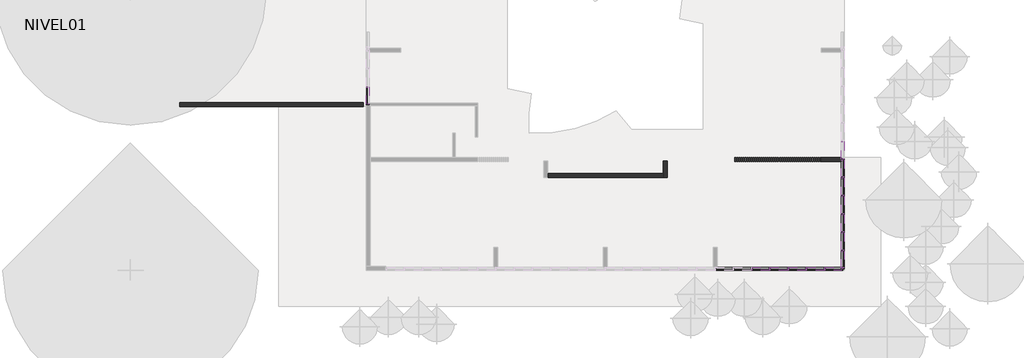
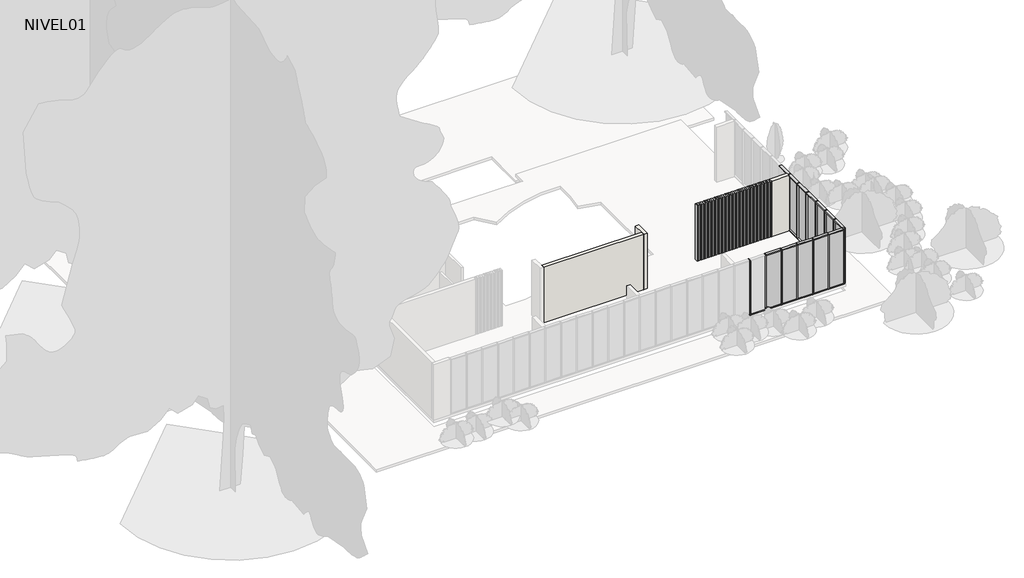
# One storey, part 2 of 4: 84 members, 12 plates, 4 walls.
"""IFC4 building model written with IfcOpenShell, lengths in millimetres."""

from ifc_helpers import new_model, si_unit, frame, origin, place, context, project, spatial, polyline, outline, extrude, faceted_brep, transform, mapped, element, save
from components import rectangular_mullion_50_x_150mm_86a57cfb, rectangular_mullion_50_x_150mm_fc863719, rectangular_mullion_50_x_150mm_24ac0887, rectangular_mullion_50_x_150mm_aa6e6970, rectangular_mullion_50_x_150mm_f2553ced, rectangular_mullion_50_x_150mm_8dc60d6a, rectangular_mullion_50_x_150mm_324a6438, rectangular_mullion_madera_50_x_200mm_c4610814, system_panel_glazed_7f3dea71, system_panel_glazed_5e317294, system_panel_glazed_5c861fb7, system_panel_glazed_22d07e78, system_panel_glazed_1ee91bb5

model = new_model("IFC4")

# Units and contexts
model_context = context("Model", 3, world=origin())
ifc_project = project(units=[si_unit("LENGTHUNIT", "METRE", prefix="MILLI")], contexts=[model_context])

# Site, building, storey
site = spatial("IfcSite", under=ifc_project)
building = spatial("IfcBuilding", under=site)
storey = spatial("IfcBuildingStorey", under=building, Name="NIVEL01", Elevation=-1000.0)

# Members
placement = place(None, origin())
rectangular_mullion_50_x_150mm_shape = rectangular_mullion_50_x_150mm_86a57cfb(model_context)
element("IfcMember", 1, ObjectType="Rectangular Mullion : 50 x 150mm", at=placement, inside=storey, context=model_context, shape_type="MappedRepresentation", body=[
    mapped(rectangular_mullion_50_x_150mm_shape, transform((4516.4065252, -266.0860763, -1020.0), x_axis=(0.0, -1.0, 0.0), y_axis=(-1.0, 0.0, 0.0), z_axis=(0.0, 0.0, -1.0))),
])
element("IfcMember", 2, ObjectType="Rectangular Mullion : 50 x 150mm", at=placement, inside=storey, context=model_context, shape_type="MappedRepresentation", body=[
    mapped(rectangular_mullion_50_x_150mm_shape, transform((4516.4065252, -1166.0860763, -1020.0), x_axis=(0.0, -1.0, 0.0), y_axis=(-1.0, 0.0, 0.0), z_axis=(0.0, 0.0, -1.0))),
])
element("IfcMember", 3, ObjectType="Rectangular Mullion : 50 x 150mm", at=placement, inside=storey, context=model_context, shape_type="MappedRepresentation", body=[
    mapped(rectangular_mullion_50_x_150mm_shape, transform((4516.4065252, -2066.0860763, -1020.0), x_axis=(0.0, -1.0, 0.0), y_axis=(-1.0, 0.0, 0.0), z_axis=(0.0, 0.0, -1.0))),
])
element("IfcMember", 4, ObjectType="Rectangular Mullion : 50 x 150mm", at=placement, inside=storey, context=model_context, shape_type="MappedRepresentation", body=[
    mapped(rectangular_mullion_50_x_150mm_shape, transform((4516.4065252, -2966.0860763, -1020.0), x_axis=(0.0, -1.0, 0.0), y_axis=(-1.0, 0.0, 0.0), z_axis=(0.0, 0.0, -1.0))),
])
element("IfcMember", 5, ObjectType="Rectangular Mullion : 50 x 150mm", at=placement, inside=storey, context=model_context, shape_type="MappedRepresentation", body=[
    mapped(rectangular_mullion_50_x_150mm_shape, transform((4516.4065252, -3866.0860763, -1020.0), x_axis=(0.0, -1.0, 0.0), y_axis=(-1.0, 0.0, 0.0), z_axis=(0.0, 0.0, -1.0))),
])
element("IfcMember", 6, ObjectType="Rectangular Mullion : 50 x 150mm", at=placement, inside=storey, context=model_context, shape_type="MappedRepresentation", body=[
    mapped(rectangular_mullion_50_x_150mm_shape, transform((4516.4065252, -4766.0860763, -1020.0), x_axis=(0.0, -1.0, 0.0), y_axis=(-1.0, 0.0, 0.0), z_axis=(0.0, 0.0, -1.0))),
])
rectangular_mullion_50_x_150mm_2_shape = rectangular_mullion_50_x_150mm_fc863719(model_context)
element("IfcMember", 7, ObjectType="Rectangular Mullion : 50 x 150mm", at=placement, inside=storey, context=model_context, shape_type="MappedRepresentation", body=[
    mapped(rectangular_mullion_50_x_150mm_2_shape, transform((4516.4065252, -5615.5860763, 2330.0), x_axis=(0.0, 0.0, 1.0), y_axis=(-1.0, 0.0, 0.0), z_axis=(0.0, -1.0, 0.0))),
])
element("IfcMember", 8, ObjectType="Rectangular Mullion : 50 x 150mm", at=placement, inside=storey, context=model_context, shape_type="MappedRepresentation", body=[
    mapped(rectangular_mullion_50_x_150mm_2_shape, transform((4516.4065252, -4791.0860763, -1020.0), x_axis=(0.0, 0.0, -1.0), y_axis=(-1.0, 0.0, 0.0), z_axis=(0.0, 1.0, 0.0))),
])
rectangular_mullion_50_x_150mm_3_shape = rectangular_mullion_50_x_150mm_24ac0887(model_context)
element("IfcMember", 9, ObjectType="Rectangular Mullion : 50 x 150mm", at=placement, inside=storey, context=model_context, shape_type="MappedRepresentation", body=[
    mapped(rectangular_mullion_50_x_150mm_3_shape, transform((4516.4065252, -5665.5860763, -1020.0), x_axis=(0.0, -1.0, 0.0), y_axis=(-1.0, 0.0, 0.0), z_axis=(0.0, 0.0, -1.0))),
])
rectangular_mullion_50_x_150mm_4_shape = rectangular_mullion_50_x_150mm_aa6e6970(model_context)
element("IfcMember", 10, ObjectType="Rectangular Mullion : 50 x 150mm", at=placement, inside=storey, context=model_context, shape_type="MappedRepresentation", body=[
    mapped(rectangular_mullion_50_x_150mm_4_shape, transform((3616.4065248, -5665.5860763, -1000.0), x_axis=(-1.0, 0.0, 0.0), y_axis=(0.0, 1.0, 0.0), z_axis=(0.0, 0.0, -1.0))),
])
element("IfcMember", 11, ObjectType="Rectangular Mullion : 50 x 150mm", at=placement, inside=storey, context=model_context, shape_type="MappedRepresentation", body=[
    mapped(rectangular_mullion_50_x_150mm_4_shape, transform((2716.4065248, -5665.5860763, -1000.0), x_axis=(-1.0, 0.0, 0.0), y_axis=(0.0, 1.0, 0.0), z_axis=(0.0, 0.0, -1.0))),
])
element("IfcMember", 12, ObjectType="Rectangular Mullion : 50 x 150mm", at=placement, inside=storey, context=model_context, shape_type="MappedRepresentation", body=[
    mapped(rectangular_mullion_50_x_150mm_4_shape, transform((1816.4065248, -5665.5860763, -1000.0), x_axis=(-1.0, 0.0, 0.0), y_axis=(0.0, 1.0, 0.0), z_axis=(0.0, 0.0, -1.0))),
])
element("IfcMember", 13, ObjectType="Rectangular Mullion : 50 x 150mm", at=placement, inside=storey, context=model_context, shape_type="MappedRepresentation", body=[
    mapped(rectangular_mullion_50_x_150mm_4_shape, transform((916.4065248, -5665.5860763, -1000.0), x_axis=(-1.0, 0.0, 0.0), y_axis=(0.0, 1.0, 0.0), z_axis=(0.0, 0.0, -1.0))),
])
element("IfcMember", 14, ObjectType="Rectangular Mullion : 50 x 150mm", at=placement, inside=storey, context=model_context, shape_type="MappedRepresentation", body=[
    mapped(rectangular_mullion_50_x_150mm_4_shape, transform((16.4065248, -5665.5860763, -1000.0), x_axis=(-1.0, 0.0, 0.0), y_axis=(0.0, 1.0, 0.0), z_axis=(0.0, 0.0, -1.0))),
])
element("IfcMember", 15, ObjectType="Rectangular Mullion : 50 x 150mm", at=placement, inside=storey, context=model_context, shape_type="MappedRepresentation", body=[
    mapped(rectangular_mullion_50_x_150mm_4_shape, transform((-883.5934752, -5665.5860763, -1000.0), x_axis=(-1.0, 0.0, 0.0), y_axis=(0.0, 1.0, 0.0), z_axis=(0.0, 0.0, -1.0))),
])
rectangular_mullion_50_x_150mm_5_shape = rectangular_mullion_50_x_150mm_f2553ced(model_context)
element("IfcMember", 16, ObjectType="Rectangular Mullion : 50 x 150mm", at=placement, inside=storey, context=model_context, shape_type="MappedRepresentation", body=[
    mapped(rectangular_mullion_50_x_150mm_5_shape, transform((4516.4065252, -5665.5860763, 2330.0), x_axis=(1.0, 0.0, 0.0), y_axis=(0.0, 1.0, 0.0), z_axis=(0.0, 0.0, 1.0))),
])
element("IfcMember", 17, ObjectType="Rectangular Mullion : 50 x 150mm", at=placement, inside=storey, context=model_context, shape_type="MappedRepresentation", body=[
    mapped(rectangular_mullion_50_x_150mm_3_shape, transform((-18883.5934748, 2408.9139237, -1020.0), x_axis=(0.0, -1.0, 0.0), y_axis=(-1.0, 0.0, 0.0), z_axis=(0.0, 0.0, -1.0))),
])
rectangular_mullion_50_x_150mm_6_shape = rectangular_mullion_50_x_150mm_8dc60d6a(model_context)
element("IfcMember", 18, ObjectType="Rectangular Mullion : 50 x 150mm", at=placement, inside=storey, context=model_context, shape_type="MappedRepresentation", body=[
    mapped(rectangular_mullion_50_x_150mm_6_shape, transform((3641.4065248, -5665.5860763, 2330.0), x_axis=(0.0, 0.0, 1.0), y_axis=(0.0, 1.0, 0.0), z_axis=(-1.0, 0.0, 0.0))),
])
rectangular_mullion_50_x_150mm_7_shape = rectangular_mullion_50_x_150mm_324a6438(model_context)
element("IfcMember", 19, ObjectType="Rectangular Mullion : 50 x 150mm", at=placement, inside=storey, context=model_context, shape_type="MappedRepresentation", body=[
    mapped(rectangular_mullion_50_x_150mm_7_shape, transform((2741.4065248, -5665.5860763, 2330.0), x_axis=(0.0, 0.0, 1.0), y_axis=(0.0, 1.0, 0.0), z_axis=(-1.0, 0.0, 0.0))),
])
element("IfcMember", 20, ObjectType="Rectangular Mullion : 50 x 150mm", at=placement, inside=storey, context=model_context, shape_type="MappedRepresentation", body=[
    mapped(rectangular_mullion_50_x_150mm_7_shape, transform((1841.4065248, -5665.5860763, 2330.0), x_axis=(0.0, 0.0, 1.0), y_axis=(0.0, 1.0, 0.0), z_axis=(-1.0, 0.0, 0.0))),
])
element("IfcMember", 21, ObjectType="Rectangular Mullion : 50 x 150mm", at=placement, inside=storey, context=model_context, shape_type="MappedRepresentation", body=[
    mapped(rectangular_mullion_50_x_150mm_7_shape, transform((941.4065248, -5665.5860763, 2330.0), x_axis=(0.0, 0.0, 1.0), y_axis=(0.0, 1.0, 0.0), z_axis=(-1.0, 0.0, 0.0))),
])
element("IfcMember", 22, ObjectType="Rectangular Mullion : 50 x 150mm", at=placement, inside=storey, context=model_context, shape_type="MappedRepresentation", body=[
    mapped(rectangular_mullion_50_x_150mm_7_shape, transform((41.4065248, -5665.5860763, 2330.0), x_axis=(0.0, 0.0, 1.0), y_axis=(0.0, 1.0, 0.0), z_axis=(-1.0, 0.0, 0.0))),
])
element("IfcMember", 23, ObjectType="Rectangular Mullion : 50 x 150mm", at=placement, inside=storey, context=model_context, shape_type="MappedRepresentation", body=[
    mapped(rectangular_mullion_50_x_150mm_7_shape, transform((4516.4065252, -241.0860763, 2330.0), x_axis=(0.0, 0.0, 1.0), y_axis=(-1.0, 0.0, 0.0), z_axis=(0.0, -1.0, 0.0))),
])
element("IfcMember", 24, ObjectType="Rectangular Mullion : 50 x 150mm", at=placement, inside=storey, context=model_context, shape_type="MappedRepresentation", body=[
    mapped(rectangular_mullion_50_x_150mm_7_shape, transform((4516.4065252, -1141.0860763, 2330.0), x_axis=(0.0, 0.0, 1.0), y_axis=(-1.0, 0.0, 0.0), z_axis=(0.0, -1.0, 0.0))),
])
element("IfcMember", 25, ObjectType="Rectangular Mullion : 50 x 150mm", at=placement, inside=storey, context=model_context, shape_type="MappedRepresentation", body=[
    mapped(rectangular_mullion_50_x_150mm_7_shape, transform((4516.4065252, -2041.0860763, 2330.0), x_axis=(0.0, 0.0, 1.0), y_axis=(-1.0, 0.0, 0.0), z_axis=(0.0, -1.0, 0.0))),
])
element("IfcMember", 26, ObjectType="Rectangular Mullion : 50 x 150mm", at=placement, inside=storey, context=model_context, shape_type="MappedRepresentation", body=[
    mapped(rectangular_mullion_50_x_150mm_7_shape, transform((4516.4065252, -2941.0860763, 2330.0), x_axis=(0.0, 0.0, 1.0), y_axis=(-1.0, 0.0, 0.0), z_axis=(0.0, -1.0, 0.0))),
])
element("IfcMember", 27, ObjectType="Rectangular Mullion : 50 x 150mm", at=placement, inside=storey, context=model_context, shape_type="MappedRepresentation", body=[
    mapped(rectangular_mullion_50_x_150mm_7_shape, transform((4516.4065252, -3841.0860763, 2330.0), x_axis=(0.0, 0.0, 1.0), y_axis=(-1.0, 0.0, 0.0), z_axis=(0.0, -1.0, 0.0))),
])
element("IfcMember", 28, ObjectType="Rectangular Mullion : 50 x 150mm", at=placement, inside=storey, context=model_context, shape_type="MappedRepresentation", body=[
    mapped(rectangular_mullion_50_x_150mm_7_shape, transform((4516.4065252, -4741.0860763, 2330.0), x_axis=(0.0, 0.0, 1.0), y_axis=(-1.0, 0.0, 0.0), z_axis=(0.0, -1.0, 0.0))),
])
element("IfcMember", 29, ObjectType="Rectangular Mullion : 50 x 150mm", at=placement, inside=storey, context=model_context, shape_type="MappedRepresentation", body=[
    mapped(rectangular_mullion_50_x_150mm_6_shape, transform((4466.4065252, -5665.5860763, -1000.0), x_axis=(0.0, 0.0, -1.0), y_axis=(0.0, 1.0, 0.0), z_axis=(1.0, 0.0, 0.0))),
])
element("IfcMember", 30, ObjectType="Rectangular Mullion : 50 x 150mm", at=placement, inside=storey, context=model_context, shape_type="MappedRepresentation", body=[
    mapped(rectangular_mullion_50_x_150mm_7_shape, transform((3591.4065248, -5665.5860763, -1000.0), x_axis=(0.0, 0.0, -1.0), y_axis=(0.0, 1.0, 0.0), z_axis=(1.0, 0.0, 0.0))),
])
element("IfcMember", 31, ObjectType="Rectangular Mullion : 50 x 150mm", at=placement, inside=storey, context=model_context, shape_type="MappedRepresentation", body=[
    mapped(rectangular_mullion_50_x_150mm_7_shape, transform((2691.4065248, -5665.5860763, -1000.0), x_axis=(0.0, 0.0, -1.0), y_axis=(0.0, 1.0, 0.0), z_axis=(1.0, 0.0, 0.0))),
])
element("IfcMember", 32, ObjectType="Rectangular Mullion : 50 x 150mm", at=placement, inside=storey, context=model_context, shape_type="MappedRepresentation", body=[
    mapped(rectangular_mullion_50_x_150mm_7_shape, transform((1791.4065248, -5665.5860763, -1000.0), x_axis=(0.0, 0.0, -1.0), y_axis=(0.0, 1.0, 0.0), z_axis=(1.0, 0.0, 0.0))),
])
element("IfcMember", 33, ObjectType="Rectangular Mullion : 50 x 150mm", at=placement, inside=storey, context=model_context, shape_type="MappedRepresentation", body=[
    mapped(rectangular_mullion_50_x_150mm_7_shape, transform((891.4065248, -5665.5860763, -1000.0), x_axis=(0.0, 0.0, -1.0), y_axis=(0.0, 1.0, 0.0), z_axis=(1.0, 0.0, 0.0))),
])
element("IfcMember", 34, ObjectType="Rectangular Mullion : 50 x 150mm", at=placement, inside=storey, context=model_context, shape_type="MappedRepresentation", body=[
    mapped(rectangular_mullion_50_x_150mm_7_shape, transform((-8.5934752, -5665.5860763, -1000.0), x_axis=(0.0, 0.0, -1.0), y_axis=(0.0, 1.0, 0.0), z_axis=(1.0, 0.0, 0.0))),
])
element("IfcMember", 35, ObjectType="Rectangular Mullion : 50 x 150mm", at=placement, inside=storey, context=model_context, shape_type="MappedRepresentation", body=[
    mapped(rectangular_mullion_50_x_150mm_7_shape, transform((-908.5934752, -5665.5860763, -1000.0), x_axis=(0.0, 0.0, -1.0), y_axis=(0.0, 1.0, 0.0), z_axis=(1.0, 0.0, 0.0))),
])
element("IfcMember", 36, ObjectType="Rectangular Mullion : 50 x 150mm", at=placement, inside=storey, context=model_context, shape_type="MappedRepresentation", body=[
    mapped(rectangular_mullion_50_x_150mm_7_shape, transform((4516.4065252, -291.0860763, -1020.0), x_axis=(0.0, 0.0, -1.0), y_axis=(-1.0, 0.0, 0.0), z_axis=(0.0, 1.0, 0.0))),
])
element("IfcMember", 37, ObjectType="Rectangular Mullion : 50 x 150mm", at=placement, inside=storey, context=model_context, shape_type="MappedRepresentation", body=[
    mapped(rectangular_mullion_50_x_150mm_7_shape, transform((4516.4065252, -1191.0860763, -1020.0), x_axis=(0.0, 0.0, -1.0), y_axis=(-1.0, 0.0, 0.0), z_axis=(0.0, 1.0, 0.0))),
])
element("IfcMember", 38, ObjectType="Rectangular Mullion : 50 x 150mm", at=placement, inside=storey, context=model_context, shape_type="MappedRepresentation", body=[
    mapped(rectangular_mullion_50_x_150mm_7_shape, transform((4516.4065252, -2091.0860763, -1020.0), x_axis=(0.0, 0.0, -1.0), y_axis=(-1.0, 0.0, 0.0), z_axis=(0.0, 1.0, 0.0))),
])
element("IfcMember", 39, ObjectType="Rectangular Mullion : 50 x 150mm", at=placement, inside=storey, context=model_context, shape_type="MappedRepresentation", body=[
    mapped(rectangular_mullion_50_x_150mm_7_shape, transform((4516.4065252, -2991.0860763, -1020.0), x_axis=(0.0, 0.0, -1.0), y_axis=(-1.0, 0.0, 0.0), z_axis=(0.0, 1.0, 0.0))),
])
element("IfcMember", 40, ObjectType="Rectangular Mullion : 50 x 150mm", at=placement, inside=storey, context=model_context, shape_type="MappedRepresentation", body=[
    mapped(rectangular_mullion_50_x_150mm_7_shape, transform((4516.4065252, -3891.0860763, -1020.0), x_axis=(0.0, 0.0, -1.0), y_axis=(-1.0, 0.0, 0.0), z_axis=(0.0, 1.0, 0.0))),
])
element("IfcMember", 41, ObjectType="Rectangular Mullion : 50 x 150mm", at=placement, inside=storey, context=model_context, shape_type="MappedRepresentation", body=[
    mapped(rectangular_mullion_50_x_150mm_7_shape, transform((-18883.5934748, 2458.9139237, 2330.0), x_axis=(0.0, 0.0, 1.0), y_axis=(-1.0, 0.0, 0.0), z_axis=(0.0, -1.0, 0.0))),
])
rectangular_mullion_madera_50_x_200mm_shape = rectangular_mullion_madera_50_x_200mm_c4610814(model_context)
element("IfcMember", 42, ObjectType="Rectangular Mullion : MADERA 50 x 200mm", at=placement, inside=storey, context=model_context, shape_type="MappedRepresentation", body=[
    mapped(rectangular_mullion_madera_50_x_200mm_shape, transform((-783.5934745, -266.0860759, -1020.0), x_axis=(1.0, 0.0, 0.0), y_axis=(0.0, -1.0, 0.0), z_axis=(0.0, 0.0, -1.0))),
])
element("IfcMember", 43, ObjectType="Rectangular Mullion : MADERA 50 x 200mm", at=placement, inside=storey, context=model_context, shape_type="MappedRepresentation", body=[
    mapped(rectangular_mullion_madera_50_x_200mm_shape, transform((-683.5934745, -266.0860759, -1020.0), x_axis=(1.0, 0.0, 0.0), y_axis=(0.0, -1.0, 0.0), z_axis=(0.0, 0.0, -1.0))),
])
element("IfcMember", 44, ObjectType="Rectangular Mullion : MADERA 50 x 200mm", at=placement, inside=storey, context=model_context, shape_type="MappedRepresentation", body=[
    mapped(rectangular_mullion_madera_50_x_200mm_shape, transform((-583.5934745, -266.0860759, -1020.0), x_axis=(1.0, 0.0, 0.0), y_axis=(0.0, -1.0, 0.0), z_axis=(0.0, 0.0, -1.0))),
])
element("IfcMember", 45, ObjectType="Rectangular Mullion : MADERA 50 x 200mm", at=placement, inside=storey, context=model_context, shape_type="MappedRepresentation", body=[
    mapped(rectangular_mullion_madera_50_x_200mm_shape, transform((-483.5934745, -266.0860759, -1020.0), x_axis=(1.0, 0.0, 0.0), y_axis=(0.0, -1.0, 0.0), z_axis=(0.0, 0.0, -1.0))),
])
element("IfcMember", 46, ObjectType="Rectangular Mullion : MADERA 50 x 200mm", at=placement, inside=storey, context=model_context, shape_type="MappedRepresentation", body=[
    mapped(rectangular_mullion_madera_50_x_200mm_shape, transform((-383.5934745, -266.0860759, -1020.0), x_axis=(1.0, 0.0, 0.0), y_axis=(0.0, -1.0, 0.0), z_axis=(0.0, 0.0, -1.0))),
])
element("IfcMember", 47, ObjectType="Rectangular Mullion : MADERA 50 x 200mm", at=placement, inside=storey, context=model_context, shape_type="MappedRepresentation", body=[
    mapped(rectangular_mullion_madera_50_x_200mm_shape, transform((-283.5934745, -266.0860759, -1020.0), x_axis=(1.0, 0.0, 0.0), y_axis=(0.0, -1.0, 0.0), z_axis=(0.0, 0.0, -1.0))),
])
element("IfcMember", 48, ObjectType="Rectangular Mullion : MADERA 50 x 200mm", at=placement, inside=storey, context=model_context, shape_type="MappedRepresentation", body=[
    mapped(rectangular_mullion_madera_50_x_200mm_shape, transform((-183.5934745, -266.0860759, -1020.0), x_axis=(1.0, 0.0, 0.0), y_axis=(0.0, -1.0, 0.0), z_axis=(0.0, 0.0, -1.0))),
])
element("IfcMember", 49, ObjectType="Rectangular Mullion : MADERA 50 x 200mm", at=placement, inside=storey, context=model_context, shape_type="MappedRepresentation", body=[
    mapped(rectangular_mullion_madera_50_x_200mm_shape, transform((-83.5934745, -266.0860759, -1020.0), x_axis=(1.0, 0.0, 0.0), y_axis=(0.0, -1.0, 0.0), z_axis=(0.0, 0.0, -1.0))),
])
element("IfcMember", 50, ObjectType="Rectangular Mullion : MADERA 50 x 200mm", at=placement, inside=storey, context=model_context, shape_type="MappedRepresentation", body=[
    mapped(rectangular_mullion_madera_50_x_200mm_shape, transform((16.4065255, -266.0860759, -1020.0), x_axis=(1.0, 0.0, 0.0), y_axis=(0.0, -1.0, 0.0), z_axis=(0.0, 0.0, -1.0))),
])
element("IfcMember", 51, ObjectType="Rectangular Mullion : MADERA 50 x 200mm", at=placement, inside=storey, context=model_context, shape_type="MappedRepresentation", body=[
    mapped(rectangular_mullion_madera_50_x_200mm_shape, transform((116.4065255, -266.0860759, -1020.0), x_axis=(1.0, 0.0, 0.0), y_axis=(0.0, -1.0, 0.0), z_axis=(0.0, 0.0, -1.0))),
])
element("IfcMember", 52, ObjectType="Rectangular Mullion : MADERA 50 x 200mm", at=placement, inside=storey, context=model_context, shape_type="MappedRepresentation", body=[
    mapped(rectangular_mullion_madera_50_x_200mm_shape, transform((216.4065255, -266.0860759, -1020.0), x_axis=(1.0, 0.0, 0.0), y_axis=(0.0, -1.0, 0.0), z_axis=(0.0, 0.0, -1.0))),
])
element("IfcMember", 53, ObjectType="Rectangular Mullion : MADERA 50 x 200mm", at=placement, inside=storey, context=model_context, shape_type="MappedRepresentation", body=[
    mapped(rectangular_mullion_madera_50_x_200mm_shape, transform((316.4065255, -266.0860759, -1020.0), x_axis=(1.0, 0.0, 0.0), y_axis=(0.0, -1.0, 0.0), z_axis=(0.0, 0.0, -1.0))),
])
element("IfcMember", 54, ObjectType="Rectangular Mullion : MADERA 50 x 200mm", at=placement, inside=storey, context=model_context, shape_type="MappedRepresentation", body=[
    mapped(rectangular_mullion_madera_50_x_200mm_shape, transform((416.4065255, -266.0860759, -1020.0), x_axis=(1.0, 0.0, 0.0), y_axis=(0.0, -1.0, 0.0), z_axis=(0.0, 0.0, -1.0))),
])
element("IfcMember", 55, ObjectType="Rectangular Mullion : MADERA 50 x 200mm", at=placement, inside=storey, context=model_context, shape_type="MappedRepresentation", body=[
    mapped(rectangular_mullion_madera_50_x_200mm_shape, transform((516.4065255, -266.0860759, -1020.0), x_axis=(1.0, 0.0, 0.0), y_axis=(0.0, -1.0, 0.0), z_axis=(0.0, 0.0, -1.0))),
])
element("IfcMember", 56, ObjectType="Rectangular Mullion : MADERA 50 x 200mm", at=placement, inside=storey, context=model_context, shape_type="MappedRepresentation", body=[
    mapped(rectangular_mullion_madera_50_x_200mm_shape, transform((616.4065255, -266.0860759, -1020.0), x_axis=(1.0, 0.0, 0.0), y_axis=(0.0, -1.0, 0.0), z_axis=(0.0, 0.0, -1.0))),
])
element("IfcMember", 57, ObjectType="Rectangular Mullion : MADERA 50 x 200mm", at=placement, inside=storey, context=model_context, shape_type="MappedRepresentation", body=[
    mapped(rectangular_mullion_madera_50_x_200mm_shape, transform((716.4065255, -266.0860759, -1020.0), x_axis=(1.0, 0.0, 0.0), y_axis=(0.0, -1.0, 0.0), z_axis=(0.0, 0.0, -1.0))),
])
element("IfcMember", 58, ObjectType="Rectangular Mullion : MADERA 50 x 200mm", at=placement, inside=storey, context=model_context, shape_type="MappedRepresentation", body=[
    mapped(rectangular_mullion_madera_50_x_200mm_shape, transform((816.4065255, -266.0860759, -1020.0), x_axis=(1.0, 0.0, 0.0), y_axis=(0.0, -1.0, 0.0), z_axis=(0.0, 0.0, -1.0))),
])
element("IfcMember", 59, ObjectType="Rectangular Mullion : MADERA 50 x 200mm", at=placement, inside=storey, context=model_context, shape_type="MappedRepresentation", body=[
    mapped(rectangular_mullion_madera_50_x_200mm_shape, transform((916.4065255, -266.0860759, -1020.0), x_axis=(1.0, 0.0, 0.0), y_axis=(0.0, -1.0, 0.0), z_axis=(0.0, 0.0, -1.0))),
])
element("IfcMember", 60, ObjectType="Rectangular Mullion : MADERA 50 x 200mm", at=placement, inside=storey, context=model_context, shape_type="MappedRepresentation", body=[
    mapped(rectangular_mullion_madera_50_x_200mm_shape, transform((1016.4065255, -266.0860759, -1020.0), x_axis=(1.0, 0.0, 0.0), y_axis=(0.0, -1.0, 0.0), z_axis=(0.0, 0.0, -1.0))),
])
element("IfcMember", 61, ObjectType="Rectangular Mullion : MADERA 50 x 200mm", at=placement, inside=storey, context=model_context, shape_type="MappedRepresentation", body=[
    mapped(rectangular_mullion_madera_50_x_200mm_shape, transform((1116.4065255, -266.0860759, -1020.0), x_axis=(1.0, 0.0, 0.0), y_axis=(0.0, -1.0, 0.0), z_axis=(0.0, 0.0, -1.0))),
])
element("IfcMember", 62, ObjectType="Rectangular Mullion : MADERA 50 x 200mm", at=placement, inside=storey, context=model_context, shape_type="MappedRepresentation", body=[
    mapped(rectangular_mullion_madera_50_x_200mm_shape, transform((1216.4065255, -266.0860759, -1020.0), x_axis=(1.0, 0.0, 0.0), y_axis=(0.0, -1.0, 0.0), z_axis=(0.0, 0.0, -1.0))),
])
element("IfcMember", 63, ObjectType="Rectangular Mullion : MADERA 50 x 200mm", at=placement, inside=storey, context=model_context, shape_type="MappedRepresentation", body=[
    mapped(rectangular_mullion_madera_50_x_200mm_shape, transform((1316.4065255, -266.0860759, -1020.0), x_axis=(1.0, 0.0, 0.0), y_axis=(0.0, -1.0, 0.0), z_axis=(0.0, 0.0, -1.0))),
])
element("IfcMember", 64, ObjectType="Rectangular Mullion : MADERA 50 x 200mm", at=placement, inside=storey, context=model_context, shape_type="MappedRepresentation", body=[
    mapped(rectangular_mullion_madera_50_x_200mm_shape, transform((1416.4065255, -266.0860759, -1020.0), x_axis=(1.0, 0.0, 0.0), y_axis=(0.0, -1.0, 0.0), z_axis=(0.0, 0.0, -1.0))),
])
element("IfcMember", 65, ObjectType="Rectangular Mullion : MADERA 50 x 200mm", at=placement, inside=storey, context=model_context, shape_type="MappedRepresentation", body=[
    mapped(rectangular_mullion_madera_50_x_200mm_shape, transform((1516.4065255, -266.0860759, -1020.0), x_axis=(1.0, 0.0, 0.0), y_axis=(0.0, -1.0, 0.0), z_axis=(0.0, 0.0, -1.0))),
])
element("IfcMember", 66, ObjectType="Rectangular Mullion : MADERA 50 x 200mm", at=placement, inside=storey, context=model_context, shape_type="MappedRepresentation", body=[
    mapped(rectangular_mullion_madera_50_x_200mm_shape, transform((1616.4065255, -266.0860759, -1020.0), x_axis=(1.0, 0.0, 0.0), y_axis=(0.0, -1.0, 0.0), z_axis=(0.0, 0.0, -1.0))),
])
element("IfcMember", 67, ObjectType="Rectangular Mullion : MADERA 50 x 200mm", at=placement, inside=storey, context=model_context, shape_type="MappedRepresentation", body=[
    mapped(rectangular_mullion_madera_50_x_200mm_shape, transform((1716.4065255, -266.0860759, -1020.0), x_axis=(1.0, 0.0, 0.0), y_axis=(0.0, -1.0, 0.0), z_axis=(0.0, 0.0, -1.0))),
])
element("IfcMember", 68, ObjectType="Rectangular Mullion : MADERA 50 x 200mm", at=placement, inside=storey, context=model_context, shape_type="MappedRepresentation", body=[
    mapped(rectangular_mullion_madera_50_x_200mm_shape, transform((1816.4065255, -266.0860759, -1020.0), x_axis=(1.0, 0.0, 0.0), y_axis=(0.0, -1.0, 0.0), z_axis=(0.0, 0.0, -1.0))),
])
element("IfcMember", 69, ObjectType="Rectangular Mullion : MADERA 50 x 200mm", at=placement, inside=storey, context=model_context, shape_type="MappedRepresentation", body=[
    mapped(rectangular_mullion_madera_50_x_200mm_shape, transform((1916.4065255, -266.0860759, -1020.0), x_axis=(1.0, 0.0, 0.0), y_axis=(0.0, -1.0, 0.0), z_axis=(0.0, 0.0, -1.0))),
])
element("IfcMember", 70, ObjectType="Rectangular Mullion : MADERA 50 x 200mm", at=placement, inside=storey, context=model_context, shape_type="MappedRepresentation", body=[
    mapped(rectangular_mullion_madera_50_x_200mm_shape, transform((2016.4065255, -266.0860759, -1020.0), x_axis=(1.0, 0.0, 0.0), y_axis=(0.0, -1.0, 0.0), z_axis=(0.0, 0.0, -1.0))),
])
element("IfcMember", 71, ObjectType="Rectangular Mullion : MADERA 50 x 200mm", at=placement, inside=storey, context=model_context, shape_type="MappedRepresentation", body=[
    mapped(rectangular_mullion_madera_50_x_200mm_shape, transform((2116.4065255, -266.0860759, -1020.0), x_axis=(1.0, 0.0, 0.0), y_axis=(0.0, -1.0, 0.0), z_axis=(0.0, 0.0, -1.0))),
])
element("IfcMember", 72, ObjectType="Rectangular Mullion : MADERA 50 x 200mm", at=placement, inside=storey, context=model_context, shape_type="MappedRepresentation", body=[
    mapped(rectangular_mullion_madera_50_x_200mm_shape, transform((2216.4065255, -266.0860759, -1020.0), x_axis=(1.0, 0.0, 0.0), y_axis=(0.0, -1.0, 0.0), z_axis=(0.0, 0.0, -1.0))),
])
element("IfcMember", 73, ObjectType="Rectangular Mullion : MADERA 50 x 200mm", at=placement, inside=storey, context=model_context, shape_type="MappedRepresentation", body=[
    mapped(rectangular_mullion_madera_50_x_200mm_shape, transform((2316.4065255, -266.0860759, -1020.0), x_axis=(1.0, 0.0, 0.0), y_axis=(0.0, -1.0, 0.0), z_axis=(0.0, 0.0, -1.0))),
])
element("IfcMember", 74, ObjectType="Rectangular Mullion : MADERA 50 x 200mm", at=placement, inside=storey, context=model_context, shape_type="MappedRepresentation", body=[
    mapped(rectangular_mullion_madera_50_x_200mm_shape, transform((2416.4065255, -266.0860759, -1020.0), x_axis=(1.0, 0.0, 0.0), y_axis=(0.0, -1.0, 0.0), z_axis=(0.0, 0.0, -1.0))),
])
element("IfcMember", 75, ObjectType="Rectangular Mullion : MADERA 50 x 200mm", at=placement, inside=storey, context=model_context, shape_type="MappedRepresentation", body=[
    mapped(rectangular_mullion_madera_50_x_200mm_shape, transform((2516.4065255, -266.0860759, -1020.0), x_axis=(1.0, 0.0, 0.0), y_axis=(0.0, -1.0, 0.0), z_axis=(0.0, 0.0, -1.0))),
])
element("IfcMember", 76, ObjectType="Rectangular Mullion : MADERA 50 x 200mm", at=placement, inside=storey, context=model_context, shape_type="MappedRepresentation", body=[
    mapped(rectangular_mullion_madera_50_x_200mm_shape, transform((2616.4065255, -266.0860759, -1020.0), x_axis=(1.0, 0.0, 0.0), y_axis=(0.0, -1.0, 0.0), z_axis=(0.0, 0.0, -1.0))),
])
element("IfcMember", 77, ObjectType="Rectangular Mullion : MADERA 50 x 200mm", at=placement, inside=storey, context=model_context, shape_type="MappedRepresentation", body=[
    mapped(rectangular_mullion_madera_50_x_200mm_shape, transform((2716.4065255, -266.0860759, -1020.0), x_axis=(1.0, 0.0, 0.0), y_axis=(0.0, -1.0, 0.0), z_axis=(0.0, 0.0, -1.0))),
])
element("IfcMember", 78, ObjectType="Rectangular Mullion : MADERA 50 x 200mm", at=placement, inside=storey, context=model_context, shape_type="MappedRepresentation", body=[
    mapped(rectangular_mullion_madera_50_x_200mm_shape, transform((2816.4065255, -266.0860759, -1020.0), x_axis=(1.0, 0.0, 0.0), y_axis=(0.0, -1.0, 0.0), z_axis=(0.0, 0.0, -1.0))),
])
element("IfcMember", 79, ObjectType="Rectangular Mullion : MADERA 50 x 200mm", at=placement, inside=storey, context=model_context, shape_type="MappedRepresentation", body=[
    mapped(rectangular_mullion_madera_50_x_200mm_shape, transform((2916.4065255, -266.0860759, -1020.0), x_axis=(1.0, 0.0, 0.0), y_axis=(0.0, -1.0, 0.0), z_axis=(0.0, 0.0, -1.0))),
])
element("IfcMember", 80, ObjectType="Rectangular Mullion : MADERA 50 x 200mm", at=placement, inside=storey, context=model_context, shape_type="MappedRepresentation", body=[
    mapped(rectangular_mullion_madera_50_x_200mm_shape, transform((3016.4065255, -266.0860759, -1020.0), x_axis=(1.0, 0.0, 0.0), y_axis=(0.0, -1.0, 0.0), z_axis=(0.0, 0.0, -1.0))),
])
element("IfcMember", 81, ObjectType="Rectangular Mullion : MADERA 50 x 200mm", at=placement, inside=storey, context=model_context, shape_type="MappedRepresentation", body=[
    mapped(rectangular_mullion_madera_50_x_200mm_shape, transform((3116.4065255, -266.0860759, -1020.0), x_axis=(1.0, 0.0, 0.0), y_axis=(0.0, -1.0, 0.0), z_axis=(0.0, 0.0, -1.0))),
])
element("IfcMember", 82, ObjectType="Rectangular Mullion : MADERA 50 x 200mm", at=placement, inside=storey, context=model_context, shape_type="MappedRepresentation", body=[
    mapped(rectangular_mullion_madera_50_x_200mm_shape, transform((3216.4065255, -266.0860759, -1020.0), x_axis=(1.0, 0.0, 0.0), y_axis=(0.0, -1.0, 0.0), z_axis=(0.0, 0.0, -1.0))),
])
element("IfcMember", 83, ObjectType="Rectangular Mullion : MADERA 50 x 200mm", at=placement, inside=storey, context=model_context, shape_type="MappedRepresentation", body=[
    mapped(rectangular_mullion_madera_50_x_200mm_shape, transform((3316.4065255, -266.0860759, -1020.0), x_axis=(1.0, 0.0, 0.0), y_axis=(0.0, -1.0, 0.0), z_axis=(0.0, 0.0, -1.0))),
])
element("IfcMember", 84, ObjectType="Rectangular Mullion : MADERA 50 x 200mm", at=placement, inside=storey, context=model_context, shape_type="MappedRepresentation", body=[
    mapped(rectangular_mullion_madera_50_x_200mm_shape, transform((3416.4065255, -266.0860759, -1020.0), x_axis=(1.0, 0.0, 0.0), y_axis=(0.0, -1.0, 0.0), z_axis=(0.0, 0.0, -1.0))),
])

# Plates
system_panel_glazed_shape = system_panel_glazed_7f3dea71(model_context)
element("IfcPlate", 85, ObjectType="System Panel : Glazed", at=placement, inside=storey, context=model_context, shape_type="MappedRepresentation", body=[
    mapped(system_panel_glazed_shape, transform((4516.4065252, -716.0860763, -970.0), x_axis=(0.0, -1.0, 0.0), y_axis=(1.0, 0.0, 0.0), z_axis=(0.0, 0.0, 1.0))),
])
element("IfcPlate", 86, ObjectType="System Panel : Glazed", at=placement, inside=storey, context=model_context, shape_type="MappedRepresentation", body=[
    mapped(system_panel_glazed_shape, transform((4516.4065252, -1616.0860763, -970.0), x_axis=(0.0, -1.0, 0.0), y_axis=(1.0, 0.0, 0.0), z_axis=(0.0, 0.0, 1.0))),
])
element("IfcPlate", 87, ObjectType="System Panel : Glazed", at=placement, inside=storey, context=model_context, shape_type="MappedRepresentation", body=[
    mapped(system_panel_glazed_shape, transform((4516.4065252, -2516.0860763, -970.0), x_axis=(0.0, -1.0, 0.0), y_axis=(1.0, 0.0, 0.0), z_axis=(0.0, 0.0, 1.0))),
])
element("IfcPlate", 88, ObjectType="System Panel : Glazed", at=placement, inside=storey, context=model_context, shape_type="MappedRepresentation", body=[
    mapped(system_panel_glazed_shape, transform((4516.4065252, -3416.0860763, -970.0), x_axis=(0.0, -1.0, 0.0), y_axis=(1.0, 0.0, 0.0), z_axis=(0.0, 0.0, 1.0))),
])
element("IfcPlate", 89, ObjectType="System Panel : Glazed", at=placement, inside=storey, context=model_context, shape_type="MappedRepresentation", body=[
    mapped(system_panel_glazed_shape, transform((4516.4065252, -4316.0860763, -970.0), x_axis=(0.0, -1.0, 0.0), y_axis=(1.0, 0.0, 0.0), z_axis=(0.0, 0.0, 1.0))),
])
system_panel_glazed_2_shape = system_panel_glazed_5e317294(model_context)
element("IfcPlate", 90, ObjectType="System Panel : Glazed", at=placement, inside=storey, context=model_context, shape_type="MappedRepresentation", body=[
    mapped(system_panel_glazed_2_shape, transform((4516.4065252, -5203.3360763, -970.0), x_axis=(0.0, -1.0, 0.0), y_axis=(1.0, 0.0, 0.0), z_axis=(0.0, 0.0, 1.0))),
])
system_panel_glazed_3_shape = system_panel_glazed_5c861fb7(model_context)
element("IfcPlate", 91, ObjectType="System Panel : Glazed", at=placement, inside=storey, context=model_context, shape_type="MappedRepresentation", body=[
    mapped(system_panel_glazed_3_shape, transform((4053.906525, -5665.5860763, -950.0), x_axis=(-1.0, 0.0, 0.0), y_axis=(0.0, -1.0, 0.0), z_axis=(0.0, 0.0, 1.0))),
])
system_panel_glazed_4_shape = system_panel_glazed_22d07e78(model_context)
element("IfcPlate", 92, ObjectType="System Panel : Glazed", at=placement, inside=storey, context=model_context, shape_type="MappedRepresentation", body=[
    mapped(system_panel_glazed_4_shape, transform((3166.4065248, -5665.5860763, -950.0), x_axis=(-1.0, 0.0, 0.0), y_axis=(0.0, -1.0, 0.0), z_axis=(0.0, 0.0, 1.0))),
])
element("IfcPlate", 93, ObjectType="System Panel : Glazed", at=placement, inside=storey, context=model_context, shape_type="MappedRepresentation", body=[
    mapped(system_panel_glazed_4_shape, transform((2266.4065248, -5665.5860763, -950.0), x_axis=(-1.0, 0.0, 0.0), y_axis=(0.0, -1.0, 0.0), z_axis=(0.0, 0.0, 1.0))),
])
element("IfcPlate", 94, ObjectType="System Panel : Glazed", at=placement, inside=storey, context=model_context, shape_type="MappedRepresentation", body=[
    mapped(system_panel_glazed_4_shape, transform((1366.4065248, -5665.5860763, -950.0), x_axis=(-1.0, 0.0, 0.0), y_axis=(0.0, -1.0, 0.0), z_axis=(0.0, 0.0, 1.0))),
])
element("IfcPlate", 95, ObjectType="System Panel : Glazed", at=placement, inside=storey, context=model_context, shape_type="MappedRepresentation", body=[
    mapped(system_panel_glazed_4_shape, transform((466.4065248, -5665.5860763, -950.0), x_axis=(-1.0, 0.0, 0.0), y_axis=(0.0, -1.0, 0.0), z_axis=(0.0, 0.0, 1.0))),
])
system_panel_glazed_5_shape = system_panel_glazed_1ee91bb5(model_context)
element("IfcPlate", 96, ObjectType="System Panel : Glazed", at=placement, inside=storey, context=model_context, shape_type="MappedRepresentation", body=[
    mapped(system_panel_glazed_5_shape, transform((-18883.5934748, 2883.9139237, -970.0), x_axis=(0.0, -1.0, 0.0), y_axis=(1.0, 0.0, 0.0), z_axis=(0.0, 0.0, 1.0))),
])

# Walls
element("IfcWall", 97, ObjectType="HA-200mm", at=placement, inside=storey, context=model_context, shape_type="SweptSolid", body=[
    extrude(outline(polyline([(-28163.5934748, 2533.9139237), (-19123.5934748, 2533.9139237), (-19123.5934748, 2333.9139237), (-28163.5934748, 2333.9139237), (-28163.5934748, 2533.9139237)])), frame((0.0, 0.0, -1400.0), z_axis=(0.0, 0.0, 1.0), x_axis=(1.0, 0.0, 0.0)), (0.0, 0.0, 1.0), 3300.0),
])
element("IfcWall", 98, ObjectType="HA-200mm", at=placement, inside=storey, context=model_context, shape_type="Brep", body=[
    faceted_brep([(-4133.5934748, -1166.0860759, -1020.0), (-4133.5934748, -341.0860759, -1020.0), (-4133.5934748, -341.0860759, 2330.0), (-4133.5934748, -1166.0860759, 2330.0), (-4333.5934748, -1166.0860759, -1020.0), (-4333.5934748, -1166.0860759, 2330.0), (-4333.5934748, -966.0860759, 2330.0), (-4333.5934748, -341.0860759, 2330.0), (-4333.5934748, -341.0860759, -1020.0), (-4333.5934748, -966.0860759, -1020.0)], [[[0, 1, 2, 3]], [[4, 5, 6, 7, 8, 9]], [[1, 0, 4, 9, 8]], [[2, 1, 8, 7]], [[3, 2, 7, 6, 5]], [[0, 3, 5, 4]]]),
])
element("IfcWall", 99, ObjectType="HA-200mm", at=placement, inside=storey, context=model_context, shape_type="SweptSolid", body=[
    extrude(outline(polyline([(-4333.5934748, -1166.0860759), (-10033.5934748, -1166.0860759), (-10033.5934748, -966.0860759), (-4333.5934748, -966.0860759), (-4333.5934748, -1166.0860759)])), frame((0.0, 0.0, -1020.0), z_axis=(0.0, 0.0, 1.0), x_axis=(1.0, 0.0, 0.0)), (0.0, 0.0, 1.0), 3350.0),
])
element("IfcWall", 100, ObjectType="HA-200mm", at=placement, inside=storey, context=model_context, shape_type="SweptSolid", body=[
    extrude(outline(polyline([(4441.4065252, -366.0860759), (3441.4065252, -366.0860759), (3441.4065252, -166.0860759), (4441.4065252, -166.0860759), (4441.4065252, -366.0860759)])), frame((0.0, 0.0, -1020.0), z_axis=(0.0, 0.0, 1.0), x_axis=(1.0, 0.0, 0.0)), (0.0, 0.0, 1.0), 3350.0),
])

save(model, "model.ifc")
